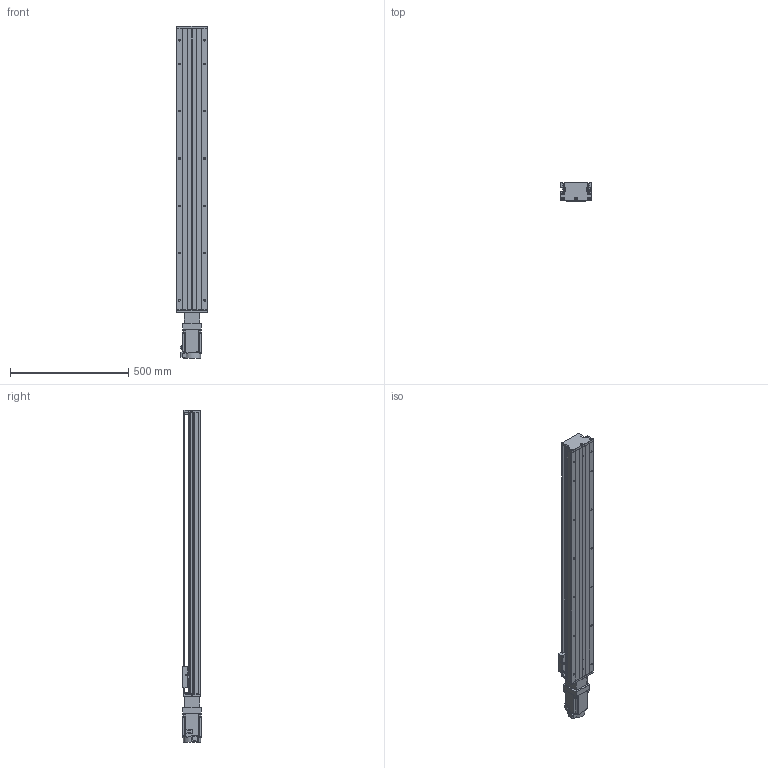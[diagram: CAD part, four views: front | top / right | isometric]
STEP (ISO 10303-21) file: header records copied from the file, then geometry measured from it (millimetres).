
FILE_DESCRIPTION (( 'STEP AP203' ), '1' );
FILE_NAME ('KTH130-1050-BC-M75-C4.step', '2023-06-30T04:16:18', ( '微软用户' ), ( '微软中国' ), 'SwSTEP 2.0', 'SolidWorks 2020', '' );
FILE_SCHEMA (( 'CONFIG_CONTROL_DESIGN' ));
Length unit declared in the file: millimetre
Products named in the file (19): KTH130-1050-BC-M75-C4; GBT70.1 M5℅16; す晦芛蹟隊 M3℅5; GBT 70.2-M3¡Á5_M3¡Á6; GBT 70.3-M3℅8; GTH14-001_1050; CTHA60-017; CTHA86-006-1_M75; KTH130-002_KTH130-002; EE_SX911P_R; CTHA86-013; KTH130-004; CTHA60-016; CTHA86-027-1; KTH130-005; GBT 70.1-M3℅5; hg-kn73j_-s100; GB1155-6X6; GBT77-2000 M3×3
Assembly tree (52 placements, depth 2):
  KTH130-1050-BC-M75-C4
    GTH14-001_1050
    KTH130-002_KTH130-002
    KTH130-004
    KTH130-005
    GB1155-6X6  x2
    GBT70.1 M5℅16  x10
    GBT 70.2-M3¡Á5_M3¡Á6  x4
    CTHA60-017  x3
    EE_SX911P_R  x3
    CTHA60-016  x2
    GBT 70.1-M3℅5  x6
    GBT77-2000 M3×3  x6
    す晦芛蹟隊 M3℅5  x2
    GBT 70.3-M3℅8  x6
    CTHA86-006-1_M75
    CTHA86-013
    CTHA86-027-1
    hg-kn73j_-s100
Bounding box: 135 x 80.44 x 1403.2 mm (x, y, z)
Volume: 7461351.3 mm3; surface area: 1085639.8 mm2
Topology: 55 solids, 55 shells, 2280 faces, 5480 edges, 3415 vertices
Faces by surface type: plane 1246, cylinder 638, cone 280, torus 104, sphere 12
Entity records: 40770 total; most frequent: DIRECTION 6731, CARTESIAN_POINT 6731, ORIENTED_EDGE 6244, EDGE_CURVE 3122, AXIS2_PLACEMENT_3D 2351, LINE 2029, VECTOR 2029, VERTEX_POINT 1987
